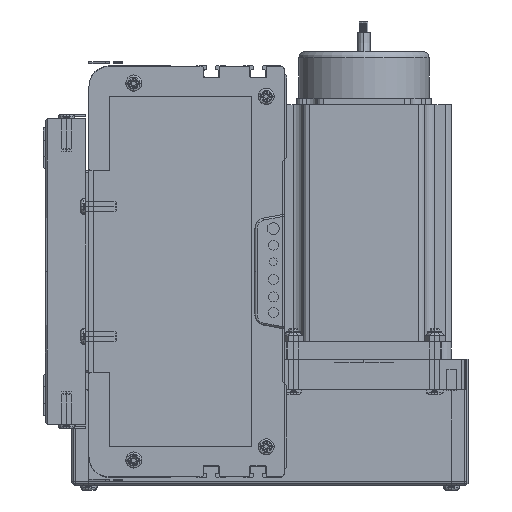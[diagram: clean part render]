
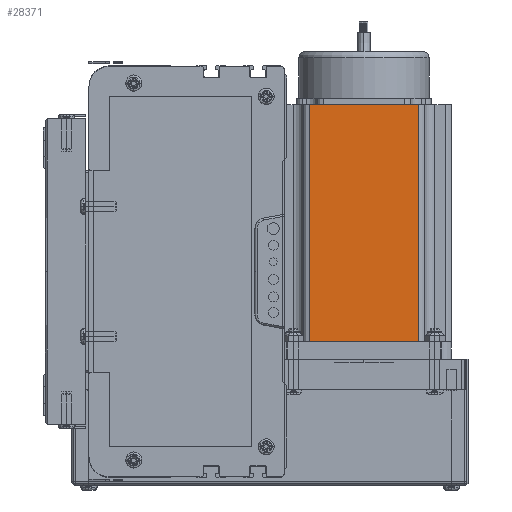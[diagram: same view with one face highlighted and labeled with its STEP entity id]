
A CAD part, left-side view. The second image highlights one B-rep face of the part: STEP entity #28371.
In plain terms, the highlighted planar face has unit normal (-1, 0, 0) as drawn and (0, -1, 0) by its records, which use the part's own axes.
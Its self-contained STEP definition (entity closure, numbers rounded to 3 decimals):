
#28083 = VERTEX_POINT ( 'NONE', #74743 ) ;
#28332 = EDGE_CURVE ( 'NONE', #28807, #28083, #139469, .T. ) ;
#28337 = EDGE_LOOP ( 'NONE', ( #28529, #28483, #28481, #28367 ) ) ;
#28367 = ORIENTED_EDGE ( 'NONE', *, *, #28806, .T. ) ;
#28371 = ADVANCED_FACE ( 'NONE', ( #139779 ), #139642, .F. ) ;
#28481 = ORIENTED_EDGE ( 'NONE', *, *, #28332, .F. ) ;
#28483 = ORIENTED_EDGE ( 'NONE', *, *, #28761, .T. ) ;
#28529 = ORIENTED_EDGE ( 'NONE', *, *, #28758, .T. ) ;
#28639 = VERTEX_POINT ( 'NONE', #44764 ) ;
#28758 = EDGE_CURVE ( 'NONE', #28805, #28639, #45056, .T. ) ;
#28761 = EDGE_CURVE ( 'NONE', #28639, #28083, #45099, .T. ) ;
#28805 = VERTEX_POINT ( 'NONE', #45164 ) ;
#28806 = EDGE_CURVE ( 'NONE', #28807, #28805, #45206, .T. ) ;
#28807 = VERTEX_POINT ( 'NONE', #45196 ) ;
#44764 = CARTESIAN_POINT ( 'NONE',  ( 69.74, 0., 0. ) ) ;
#45032 = DIRECTION ( 'NONE',  ( 1., 0., 0. ) ) ;
#45033 = VECTOR ( 'NONE', #45032, 1000. ) ;
#45055 = CARTESIAN_POINT ( 'NONE',  ( 0., 0., 0. ) ) ;
#45056 = LINE ( 'NONE', #45055, #45033 ) ;
#45094 = DIRECTION ( 'NONE',  ( 0., 0., 1. ) ) ;
#45095 = VECTOR ( 'NONE', #45094, 1000. ) ;
#45096 = CARTESIAN_POINT ( 'NONE',  ( 69.74, 0., 116.5 ) ) ;
#45099 = LINE ( 'NONE', #45096, #45095 ) ;
#45164 = CARTESIAN_POINT ( 'NONE',  ( 16.16, 0., 0. ) ) ;
#45193 = DIRECTION ( 'NONE',  ( 0., 0., -1. ) ) ;
#45194 = VECTOR ( 'NONE', #45193, 1000. ) ;
#45196 = CARTESIAN_POINT ( 'NONE',  ( 16.16, 0., 116.5 ) ) ;
#45197 = CARTESIAN_POINT ( 'NONE',  ( 16.16, 0., 116.5 ) ) ;
#45206 = LINE ( 'NONE', #45197, #45194 ) ;
#74743 = CARTESIAN_POINT ( 'NONE',  ( 69.74, 0., 116.5 ) ) ;
#139459 = DIRECTION ( 'NONE',  ( 1., 0., 0. ) ) ;
#139468 = CARTESIAN_POINT ( 'NONE',  ( 0., 0., 116.5 ) ) ;
#139469 = LINE ( 'NONE', #139468, #139472 ) ;
#139472 = VECTOR ( 'NONE', #139459, 1000. ) ;
#139642 = PLANE ( 'NONE',  #139777 ) ;
#139733 = DIRECTION ( 'NONE',  ( 0., 0., 1. ) ) ;
#139735 = DIRECTION ( 'NONE',  ( 0., 1., 0. ) ) ;
#139775 = CARTESIAN_POINT ( 'NONE',  ( 0., 0., 116.5 ) ) ;
#139777 = AXIS2_PLACEMENT_3D ( 'NONE', #139775, #139735, #139733 ) ;
#139779 = FACE_OUTER_BOUND ( 'NONE', #28337, .T. ) ;
